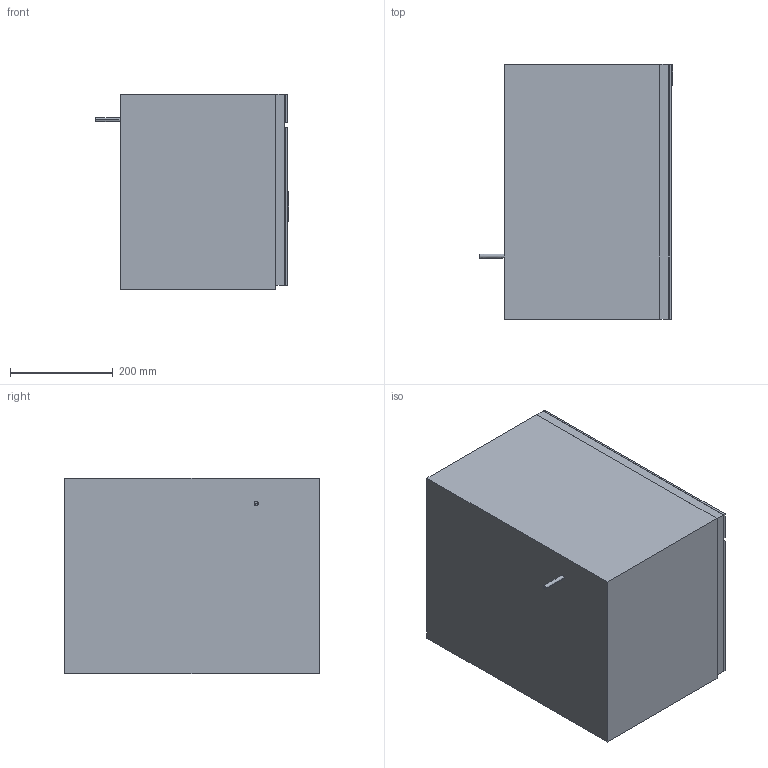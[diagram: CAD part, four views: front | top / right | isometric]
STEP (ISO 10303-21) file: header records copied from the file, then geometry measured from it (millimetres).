
FILE_DESCRIPTION(/* description */ (''),/* implementation_level */ '2;1');
FILE_NAME(/* name */ 'DG6010_OBSW',/* time_stamp */ '2013-03-11T12:08:31+01:00',/* author */ (''),/* organization */ (''),/* preprocessor_version */ 'ST-DEVELOPER v10',/* originating_system */ '',/* authorisation */ '');
FILE_SCHEMA (('AUTOMOTIVE_DESIGN_CC2'));
Length unit declared in the file: millimetre
Products named in the file (1): 1
Bounding box: 375.78 x 495.01 x 380.72 mm (x, y, z)
Volume: 60822416.9 mm3; surface area: 1685317 mm2
Topology: 7 solids, 7 shells, 56 faces, 128 edges, 82 vertices
Faces by surface type: bspline 56
Entity records: 1835 total; most frequent: CARTESIAN_POINT 959, ORIENTED_EDGE 248, EDGE_CURVE 124, B_SPLINE_CURVE_WITH_KNOTS 120, VERTEX_POINT 82, ADVANCED_FACE 56, FACE_OUTER_BOUND 56, EDGE_LOOP 56
